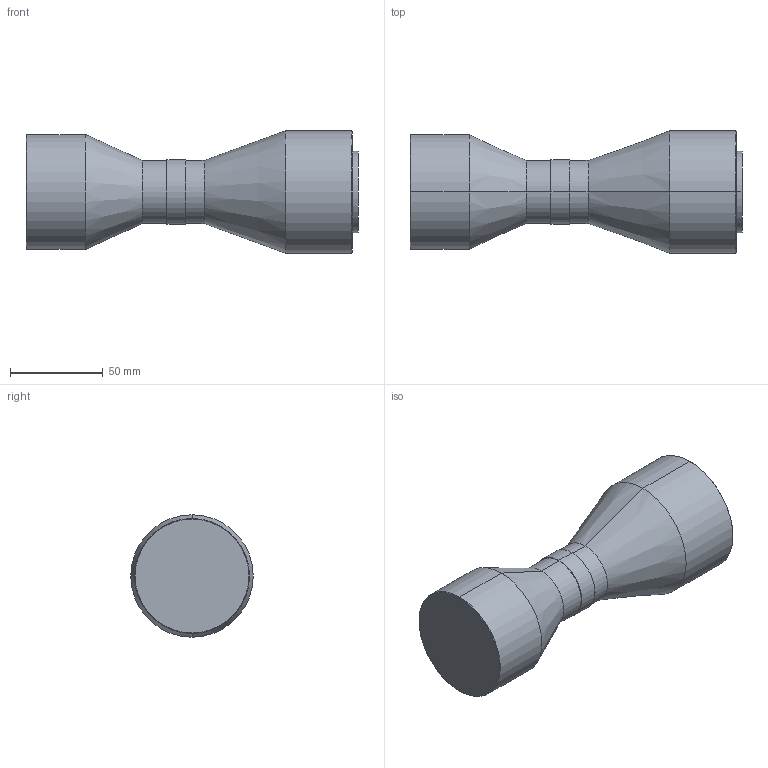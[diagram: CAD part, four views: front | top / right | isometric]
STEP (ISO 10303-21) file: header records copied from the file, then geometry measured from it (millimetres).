
FILE_DESCRIPTION (( 'STEP AP203' ), '1' );
FILE_NAME ('DTCM210-42-AL.STEP', '2019-11-22T06:01:27', ( 'Windows 蚚誧' ), ( '' ), 'SwSTEP 2.0', 'SolidWorks 2017', '' );
FILE_SCHEMA (( 'CONFIG_CONTROL_DESIGN' ));
Length unit declared in the file: millimetre
Products named in the file (1): DTCM210-42-AL
Bounding box: 179 x 66 x 66 mm (x, y, z)
Volume: 401563.9 mm3; surface area: 36620.5 mm2
Topology: 1 solids, 1 shells, 25 faces, 48 edges, 28 vertices
Faces by surface type: cylinder 12, cone 8, plane 5
Entity records: 711 total; most frequent: DIRECTION 128, CARTESIAN_POINT 102, ORIENTED_EDGE 96, AXIS2_PLACEMENT_3D 54, EDGE_CURVE 48, VERTEX_POINT 28, EDGE_LOOP 28, CIRCLE 28
